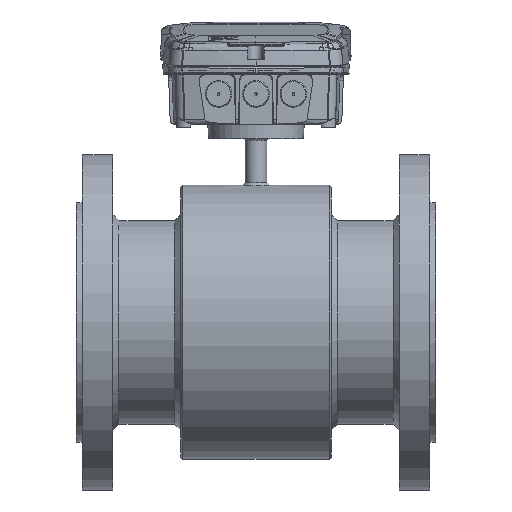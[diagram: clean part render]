
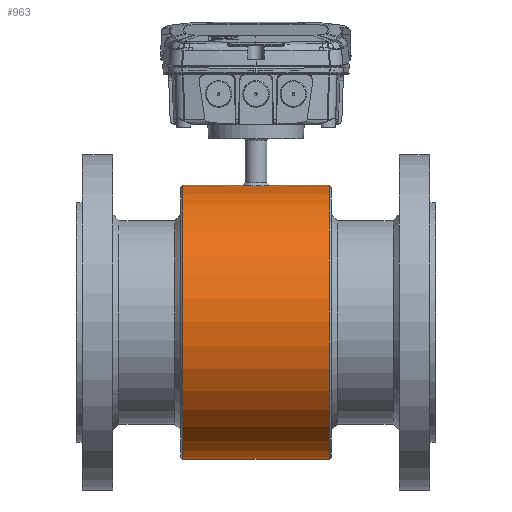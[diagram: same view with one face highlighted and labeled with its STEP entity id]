
A CAD part, front view. The second image highlights one B-rep face of the part: STEP entity #963.
In plain terms, the highlighted cylindrical face has radius 114.5 mm (diameter 229 mm), a full revolution.
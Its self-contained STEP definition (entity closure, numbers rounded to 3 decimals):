
#899=CARTESIAN_POINT('',(0.,-11.49,113.922));
#900=VERTEX_POINT('',#899);
#910=CARTESIAN_POINT('',(0.,-11.491,113.922));
#911=CARTESIAN_POINT('',(1.76,-11.491,113.922));
#912=CARTESIAN_POINT('',(5.281,-10.704,114.005));
#913=CARTESIAN_POINT('',(9.511,-7.411,114.285));
#914=CARTESIAN_POINT('',(11.861,-2.647,114.509));
#915=CARTESIAN_POINT('',(11.862,2.649,114.508));
#916=CARTESIAN_POINT('',(9.509,7.408,114.286));
#917=CARTESIAN_POINT('',(4.813,11.077,113.971));
#918=CARTESIAN_POINT('',(-0.647,11.884,113.88));
#919=CARTESIAN_POINT('',(-5.181,10.503,114.021));
#920=CARTESIAN_POINT('',(-9.108,7.904,114.245));
#921=CARTESIAN_POINT('',(-11.867,3.239,114.51));
#922=CARTESIAN_POINT('',(-11.859,-2.648,114.508));
#923=CARTESIAN_POINT('',(-9.512,-7.411,114.285));
#924=CARTESIAN_POINT('',(-5.281,-10.705,114.005));
#925=CARTESIAN_POINT('',(-1.76,-11.491,113.922));
#926=CARTESIAN_POINT('',(0.,-11.491,113.922));
#927=B_SPLINE_CURVE_WITH_KNOTS('',3,(#910,#911,#912,#913,#914,#915,#916,#917,#918,#919,#920,#921,#922,#923,#924,#925,#926),.UNSPECIFIED.,.T.,.U.,(4,1,1,1,1,1,1,1,1,1,1,1,1,1,4),(-7.363,-6.837,-6.311,-5.785,-5.259,-4.733,-4.207,-3.506,-3.155,-2.805,-2.104,-1.578,-1.052,-0.526,0.0),.UNSPECIFIED.);
#928=EDGE_CURVE('',#900,#900,#927,.T.);
#933=CARTESIAN_POINT('',(30.5,0.0,0.0));
#934=DIRECTION('',(1.0,0.0,0.0));
#935=DIRECTION('',(0.0,1.0,0.0));
#936=AXIS2_PLACEMENT_3D('',#933,#934,#935);
#937=CYLINDRICAL_SURFACE('',#936,114.5);
#938=CARTESIAN_POINT('',(-61.,114.5,0.0));
#939=VERTEX_POINT('',#938);
#940=CARTESIAN_POINT('',(-61.,0.0,0.0));
#941=DIRECTION('',(1.0,0.0,0.0));
#942=DIRECTION('',(0.0,1.0,0.0));
#943=AXIS2_PLACEMENT_3D('',#940,#941,#942);
#944=CIRCLE('',#943,114.5);
#945=EDGE_CURVE('',#939,#939,#944,.T.);
#946=ORIENTED_EDGE('',*,*,#945,.T.);
#947=EDGE_LOOP('',(#946));
#948=FACE_OUTER_BOUND('',#947,.T.);
#949=CARTESIAN_POINT('',(61.,114.5,0.0));
#950=VERTEX_POINT('',#949);
#951=CARTESIAN_POINT('',(61.,0.0,0.0));
#952=DIRECTION('',(1.0,0.0,0.0));
#953=DIRECTION('',(0.0,1.0,0.0));
#954=AXIS2_PLACEMENT_3D('',#951,#952,#953);
#955=CIRCLE('',#954,114.5);
#956=EDGE_CURVE('',#950,#950,#955,.T.);
#957=ORIENTED_EDGE('',*,*,#956,.F.);
#958=EDGE_LOOP('',(#957));
#959=FACE_BOUND('',#958,.T.);
#960=ORIENTED_EDGE('',*,*,#928,.F.);
#961=EDGE_LOOP('',(#960));
#962=FACE_BOUND('',#961,.T.);
#963=ADVANCED_FACE('',(#948,#959,#962),#937,.T.);
